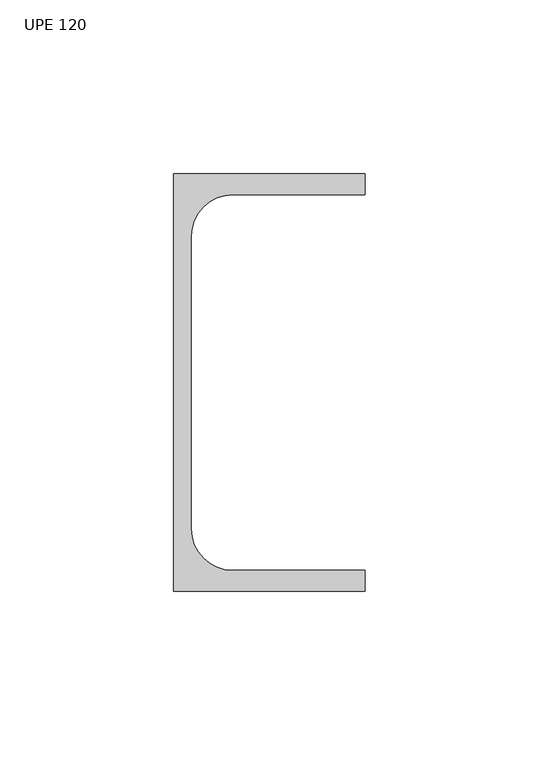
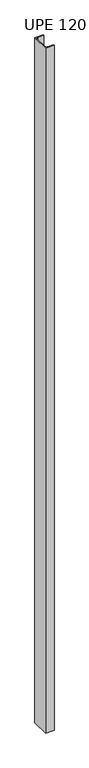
"""IFC4 building model written with IfcOpenShell, lengths in millimetres: column geometry, UPE - Canales de ala paralela - Pilar : UPE 120."""

from ifc_helpers import new_model, si_unit, point, frame_2d, origin, origin_with_axes, place, context, project, spatial, polyline, circle_curve, trimmed, segment, composite_curve, outline, extrude, source, transform, mapped, element, save


def upe_120_21539871(model_context):
    return source(origin(), model_context, "Body", "SweptSolid", [
        extrude(outline(composite_curve([segment(polyline([(-19.8, 60.0), (35.2, 60.0), (35.2, 54.0), (-2.8, 54.0)]), True, "CONTINUOUS"), segment(trimmed(circle_curve(frame_2d((-2.8, 42.0)), 12.0), [point((-2.8, 54.0))], [point((-14.8, 42.0))], True, "CARTESIAN"), True, "CONTINUOUS"), segment(polyline([(-14.8, 42.0), (-14.8, -42.0)]), True, "CONTINUOUS"), segment(trimmed(circle_curve(frame_2d((-2.8, -42.0)), 12.0), [point((-14.8, -42.0))], [point((-2.8, -54.0))], True, "CARTESIAN"), True, "CONTINUOUS"), segment(polyline([(-2.8, -54.0), (35.2, -54.0), (35.2, -60.0), (-19.8, -60.0), (-19.8, 60.0)]), True, "CONTINUOUS")], self_intersect=False)), origin_with_axes(), (0.0, 0.0, 1.0), 4710.0),
    ])


if __name__ == "__main__":
    model = new_model("IFC4")
    model_context = context("Model", 3, world=origin())
    ifc_project = project(units=[si_unit("LENGTHUNIT", "METRE", prefix="MILLI")], contexts=[model_context])
    site = spatial("IfcSite", under=ifc_project)
    building = spatial("IfcBuilding", under=site)
    placement = place(None, origin())
    upe_120_shape = upe_120_21539871(model_context)
    element("IfcColumn", 1, ObjectType="UPE - Canales de ala paralela - Pilar : UPE 120", at=placement, inside=building, context=model_context, shape_type="MappedRepresentation", body=[
        mapped(upe_120_shape, transform((0.0, 0.0, 0.0), x_axis=(1.0, 0.0, 0.0), y_axis=(0.0, 1.0, 0.0), z_axis=(0.0, 0.0, 1.0))),
    ])
    save(model, "model.ifc")
